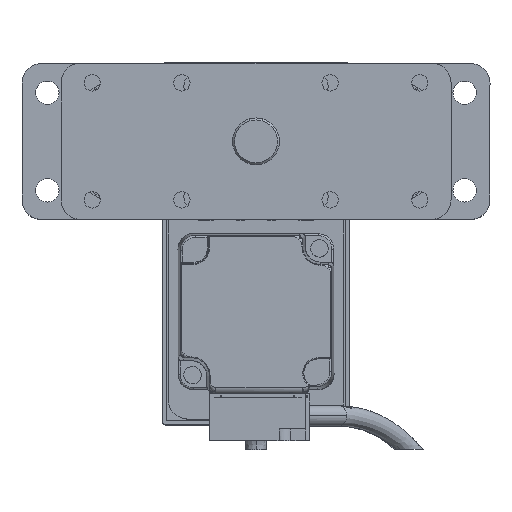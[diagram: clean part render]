
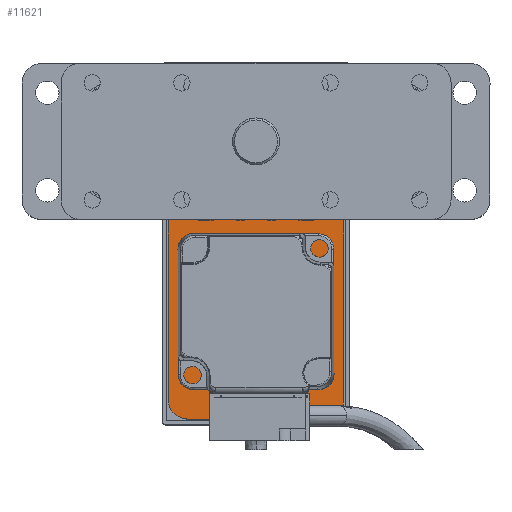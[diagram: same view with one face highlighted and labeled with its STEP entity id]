
A CAD part, top view. The second image highlights one B-rep face of the part: STEP entity #11621.
In plain terms, the highlighted planar face has unit normal (0, 0, 1).
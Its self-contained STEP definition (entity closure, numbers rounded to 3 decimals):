
#165 = CARTESIAN_POINT ( 'NONE',  ( 22.5, -45., 10. ) ) ;
#702 = CARTESIAN_POINT ( 'NONE',  ( 17.5, 40., 10. ) ) ;
#832 = AXIS2_PLACEMENT_3D ( 'NONE', #1955, #28682, #13289 ) ;
#1086 = EDGE_CURVE ( 'NONE', #19757, #21014, #8498, .T. ) ;
#1582 = EDGE_CURVE ( 'NONE', #28733, #19757, #14040, .T. ) ;
#1657 = ORIENTED_EDGE ( 'NONE', *, *, #23972, .T. ) ;
#1663 = PLANE ( 'NONE',  #12708 ) ;
#1955 = CARTESIAN_POINT ( 'NONE',  ( -17.5, -40., 10. ) ) ;
#2294 = DIRECTION ( 'NONE',  ( 1., 0., 0. ) ) ;
#2514 = EDGE_LOOP ( 'NONE', ( #5592, #22440, #7229, #18391, #22040, #7348, #21741, #1657 ) ) ;
#2934 = VECTOR ( 'NONE', #19630, 1000. ) ;
#3425 = DIRECTION ( 'NONE',  ( 0., 0., 1. ) ) ;
#3713 = VECTOR ( 'NONE', #8616, 1000. ) ;
#3747 = CARTESIAN_POINT ( 'NONE',  ( 17.5, 45., 10. ) ) ;
#4278 = CARTESIAN_POINT ( 'NONE',  ( -17.5, -45., 10. ) ) ;
#4801 = EDGE_CURVE ( 'NONE', #21014, #19908, #25059, .T. ) ;
#5257 = CIRCLE ( 'NONE', #18446, 5. ) ;
#5592 = ORIENTED_EDGE ( 'NONE', *, *, #26215, .T. ) ;
#6578 = VERTEX_POINT ( 'NONE', #3747 ) ;
#6842 = CARTESIAN_POINT ( 'NONE',  ( -17.5, 45., 10. ) ) ;
#7229 = ORIENTED_EDGE ( 'NONE', *, *, #13686, .T. ) ;
#7348 = ORIENTED_EDGE ( 'NONE', *, *, #1086, .T. ) ;
#7719 = CARTESIAN_POINT ( 'NONE',  ( 17.5, -45., 10. ) ) ;
#8498 = CIRCLE ( 'NONE', #832, 5. ) ;
#8616 = DIRECTION ( 'NONE',  ( -1., 0., 0. ) ) ;
#8653 = VECTOR ( 'NONE', #13704, 1000. ) ;
#8876 = CARTESIAN_POINT ( 'NONE',  ( 22.5, -45., 10. ) ) ;
#9813 = CIRCLE ( 'NONE', #20717, 5. ) ;
#10056 = EDGE_CURVE ( 'NONE', #10865, #6578, #9813, .T. ) ;
#10614 = CARTESIAN_POINT ( 'NONE',  ( -22.5, 40., 10. ) ) ;
#10865 = VERTEX_POINT ( 'NONE', #27765 ) ;
#11621 = ADVANCED_FACE ( 'NONE', ( #12556 ), #1663, .T. ) ;
#12556 = FACE_OUTER_BOUND ( 'NONE', #2514, .T. ) ;
#12708 = AXIS2_PLACEMENT_3D ( 'NONE', #24474, #20017, #2294 ) ;
#13289 = DIRECTION ( 'NONE',  ( 1., 0., 0. ) ) ;
#13410 = CARTESIAN_POINT ( 'NONE',  ( 22.5, -40., 10. ) ) ;
#13437 = LINE ( 'NONE', #24038, #3713 ) ;
#13686 = EDGE_CURVE ( 'NONE', #6578, #28302, #13437, .T. ) ;
#13704 = DIRECTION ( 'NONE',  ( 1., 0., 0. ) ) ;
#14040 = LINE ( 'NONE', #19332, #2934 ) ;
#15727 = AXIS2_PLACEMENT_3D ( 'NONE', #20971, #3425, #21069 ) ;
#16488 = CARTESIAN_POINT ( 'NONE',  ( -22.5, -40., 10. ) ) ;
#17671 = DIRECTION ( 'NONE',  ( 0., 1., 0. ) ) ;
#18279 = DIRECTION ( 'NONE',  ( 1., 0., 0. ) ) ;
#18391 = ORIENTED_EDGE ( 'NONE', *, *, #27092, .T. ) ;
#18446 = AXIS2_PLACEMENT_3D ( 'NONE', #23127, #27558, #18633 ) ;
#18633 = DIRECTION ( 'NONE',  ( 1., 0., 0. ) ) ;
#19226 = VERTEX_POINT ( 'NONE', #13410 ) ;
#19332 = CARTESIAN_POINT ( 'NONE',  ( -22.5, -45., 10. ) ) ;
#19630 = DIRECTION ( 'NONE',  ( 0., -1., 0. ) ) ;
#19757 = VERTEX_POINT ( 'NONE', #16488 ) ;
#19904 = VECTOR ( 'NONE', #17671, 1000. ) ;
#19908 = VERTEX_POINT ( 'NONE', #7719 ) ;
#20017 = DIRECTION ( 'NONE',  ( 0., 0., 1. ) ) ;
#20717 = AXIS2_PLACEMENT_3D ( 'NONE', #702, #20922, #18279 ) ;
#20922 = DIRECTION ( 'NONE',  ( 0., 0., 1. ) ) ;
#20971 = CARTESIAN_POINT ( 'NONE',  ( 17.5, -40., 10. ) ) ;
#21014 = VERTEX_POINT ( 'NONE', #4278 ) ;
#21069 = DIRECTION ( 'NONE',  ( 1., 0., 0. ) ) ;
#21741 = ORIENTED_EDGE ( 'NONE', *, *, #4801, .T. ) ;
#22040 = ORIENTED_EDGE ( 'NONE', *, *, #1582, .T. ) ;
#22440 = ORIENTED_EDGE ( 'NONE', *, *, #10056, .T. ) ;
#23127 = CARTESIAN_POINT ( 'NONE',  ( -17.5, 40., 10. ) ) ;
#23972 = EDGE_CURVE ( 'NONE', #19908, #19226, #27283, .T. ) ;
#24038 = CARTESIAN_POINT ( 'NONE',  ( 22.5, 45., 10. ) ) ;
#24474 = CARTESIAN_POINT ( 'NONE',  ( 0., 0., 10. ) ) ;
#25059 = LINE ( 'NONE', #165, #8653 ) ;
#26215 = EDGE_CURVE ( 'NONE', #19226, #10865, #27512, .T. ) ;
#27092 = EDGE_CURVE ( 'NONE', #28302, #28733, #5257, .T. ) ;
#27283 = CIRCLE ( 'NONE', #15727, 5. ) ;
#27512 = LINE ( 'NONE', #8876, #19904 ) ;
#27558 = DIRECTION ( 'NONE',  ( 0., 0., 1. ) ) ;
#27765 = CARTESIAN_POINT ( 'NONE',  ( 22.5, 40., 10. ) ) ;
#28302 = VERTEX_POINT ( 'NONE', #6842 ) ;
#28682 = DIRECTION ( 'NONE',  ( 0., 0., 1. ) ) ;
#28733 = VERTEX_POINT ( 'NONE', #10614 ) ;
